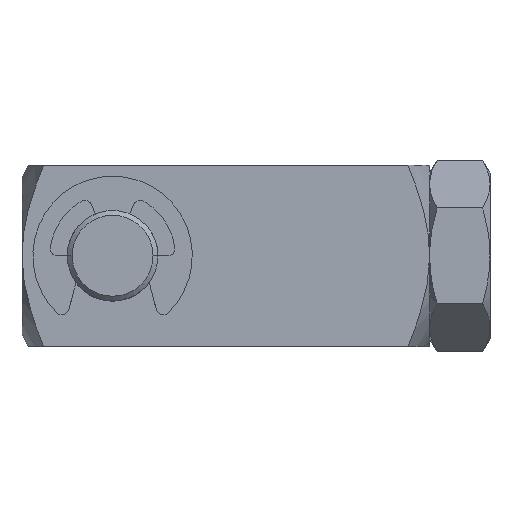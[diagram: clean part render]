
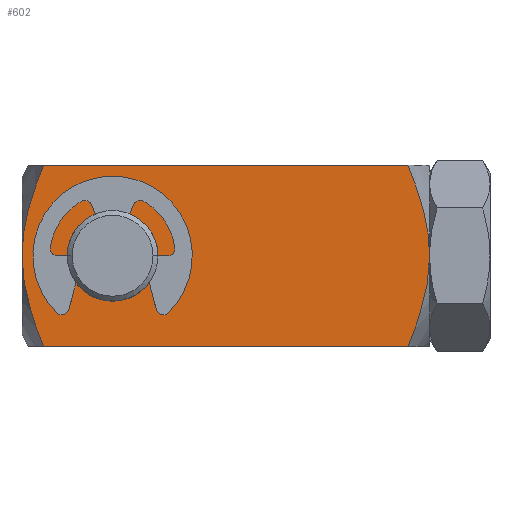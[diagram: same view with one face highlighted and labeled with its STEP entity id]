
A CAD part, top view. The second image highlights one B-rep face of the part: STEP entity #602.
In plain terms, the highlighted planar face has unit normal (0, 0, 1).
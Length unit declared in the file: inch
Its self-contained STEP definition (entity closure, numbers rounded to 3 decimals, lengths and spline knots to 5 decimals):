
#12=CARTESIAN_POINT('',(-1.59782,-0.375,0.375));
#19=DIRECTION('',(1.,0.,0.));
#20=VECTOR('',#19,1.50814);
#21=CARTESIAN_POINT('',(-1.59782,-0.375,0.375));
#22=LINE('',#21,#20);
#23=CARTESIAN_POINT('',(-0.08968,-0.375,0.375));
#68=CARTESIAN_POINT('',(-1.59782,0.375,0.375));
#69=CARTESIAN_POINT('',(-1.6072,0.35203,0.375));
#70=CARTESIAN_POINT('',(-1.6242,0.30825,0.375));
#71=CARTESIAN_POINT('',(-1.64429,0.24988,0.375));
#72=CARTESIAN_POINT('',(-1.66004,0.19653,0.375));
#73=CARTESIAN_POINT('',(-1.67215,0.14616,0.375));
#74=CARTESIAN_POINT('',(-1.68091,0.09715,0.375));
#75=CARTESIAN_POINT('',(-1.68628,0.04857,0.375));
#76=CARTESIAN_POINT('',(-1.6875,0.01618,0.375));
#77=CARTESIAN_POINT('',(-1.6875,0.,0.375));
#79=CARTESIAN_POINT('',(-0.08968,0.375,0.375));
#80=CARTESIAN_POINT('',(-0.0803,0.35203,0.375));
#81=CARTESIAN_POINT('',(-0.0633,0.30825,0.375));
#82=CARTESIAN_POINT('',(-0.04321,0.24988,0.375));
#83=CARTESIAN_POINT('',(-0.02746,0.19653,0.375));
#84=CARTESIAN_POINT('',(-0.01535,0.14616,0.375));
#85=CARTESIAN_POINT('',(-0.00659,0.09715,0.375));
#86=CARTESIAN_POINT('',(-0.00122,0.04857,0.375));
#87=CARTESIAN_POINT('',(0.,0.01618,0.375));
#88=CARTESIAN_POINT('',(0.,0.,0.375));
#90=CARTESIAN_POINT('',(0.,0.,0.375));
#91=CARTESIAN_POINT('',(0.,-0.01617,0.375));
#92=CARTESIAN_POINT('',(-0.00121,-0.04854,0.375));
#93=CARTESIAN_POINT('',(-0.00659,-0.09709,0.375));
#94=CARTESIAN_POINT('',(-0.01533,-0.14602,0.375));
#95=CARTESIAN_POINT('',(-0.02739,-0.19627,0.375));
#96=CARTESIAN_POINT('',(-0.04303,-0.24932,0.375));
#97=CARTESIAN_POINT('',(-0.06317,-0.30789,0.375));
#98=CARTESIAN_POINT('',(-0.08024,-0.35189,0.375));
#99=CARTESIAN_POINT('',(-0.08968,-0.375,0.375));
#101=CARTESIAN_POINT('',(-1.6875,0.,0.375));
#102=CARTESIAN_POINT('',(-1.6875,-0.01617,0.375));
#103=CARTESIAN_POINT('',(-1.68629,-0.04854,0.375));
#104=CARTESIAN_POINT('',(-1.68091,-0.09709,0.375));
#105=CARTESIAN_POINT('',(-1.67217,-0.14602,0.375));
#106=CARTESIAN_POINT('',(-1.66011,-0.19627,0.375));
#107=CARTESIAN_POINT('',(-1.64447,-0.24932,0.375));
#108=CARTESIAN_POINT('',(-1.62433,-0.30789,0.375));
#109=CARTESIAN_POINT('',(-1.60726,-0.35189,0.375));
#110=CARTESIAN_POINT('',(-1.59782,-0.375,0.375));
#112=CARTESIAN_POINT('',(-1.3125,0.,0.375));
#113=DIRECTION('',(0.,0.,-1.));
#114=DIRECTION('',(-1.,0.,0.));
#115=AXIS2_PLACEMENT_3D('',#112,#113,#114);
#117=CARTESIAN_POINT('',(-1.3125,0.,0.375));
#118=DIRECTION('',(0.,0.,-1.));
#119=DIRECTION('',(1.,0.,0.));
#120=AXIS2_PLACEMENT_3D('',#117,#118,#119);
#153=CARTESIAN_POINT('',(-0.08968,0.375,0.375));
#155=DIRECTION('',(1.,0.,0.));
#156=VECTOR('',#155,1.50814);
#157=CARTESIAN_POINT('',(-1.59782,0.375,0.375));
#158=LINE('',#157,#156);
#164=CARTESIAN_POINT('',(-1.59782,0.375,0.375));
#432=VERTEX_POINT('',#12);
#436=VERTEX_POINT('',#23);
#442=VERTEX_POINT('',#164);
#445=VERTEX_POINT('',#153);
#453=CARTESIAN_POINT('',(-1.6875,0.,0.375));
#454=VERTEX_POINT('',#453);
#455=VERTEX_POINT('',#88);
#468=CARTESIAN_POINT('',(-1.5005,0.,0.375));
#469=CARTESIAN_POINT('',(-1.1245,0.,0.375));
#470=VERTEX_POINT('',#468);
#471=VERTEX_POINT('',#469);
#580=CARTESIAN_POINT('',(-1.6875,-0.375,0.375));
#581=DIRECTION('',(0.,0.,1.));
#582=DIRECTION('',(1.,0.,0.));
#583=AXIS2_PLACEMENT_3D('',#580,#581,#582);
#584=PLANE('',#583);
#585=ORIENTED_EDGE('',*,*,#531,.F.);
#587=ORIENTED_EDGE('',*,*,#586,.T.);
#589=ORIENTED_EDGE('',*,*,#588,.T.);
#591=ORIENTED_EDGE('',*,*,#590,.T.);
#592=ORIENTED_EDGE('',*,*,#562,.F.);
#593=ORIENTED_EDGE('',*,*,#503,.F.);
#594=EDGE_LOOP('',(#585,#587,#589,#591,#592,#593));
#595=FACE_OUTER_BOUND('',#594,.F.);
#597=ORIENTED_EDGE('',*,*,#596,.F.);
#599=ORIENTED_EDGE('',*,*,#598,.F.);
#600=EDGE_LOOP('',(#597,#599));
#601=FACE_BOUND('',#600,.F.);
#602=ADVANCED_FACE('',(#595,#601),#584,.T.);
#78=B_SPLINE_CURVE_WITH_KNOTS('',3,(#68,#69,#70,#71,#72,#73,#74,#75,#76,#77),
.UNSPECIFIED.,.F.,.F.,(4,1,1,1,1,1,1,4),(0.,0.14286,
0.28571,0.42857,0.57143,0.71429,
0.85714,1.),.UNSPECIFIED.);
#89=B_SPLINE_CURVE_WITH_KNOTS('',3,(#79,#80,#81,#82,#83,#84,#85,#86,#87,#88),
.UNSPECIFIED.,.F.,.F.,(4,1,1,1,1,1,1,4),(0.,0.14286,
0.28571,0.42857,0.57143,0.71429,
0.85714,1.),.UNSPECIFIED.);
#100=B_SPLINE_CURVE_WITH_KNOTS('',3,(#90,#91,#92,#93,#94,#95,#96,#97,#98,#99),
.UNSPECIFIED.,.F.,.F.,(4,1,1,1,1,1,1,4),(0.,0.14286,
0.28571,0.42857,0.57143,0.71429,
0.85714,1.),.UNSPECIFIED.);
#111=B_SPLINE_CURVE_WITH_KNOTS('',3,(#101,#102,#103,#104,#105,#106,#107,#108,
#109,#110),.UNSPECIFIED.,.F.,.F.,(4,1,1,1,1,1,1,4),(0.,0.14286,
0.28571,0.42857,0.57143,0.71429,
0.85714,1.),.UNSPECIFIED.);
#116=CIRCLE('',#115,0.188);
#121=CIRCLE('',#120,0.188);
#503=EDGE_CURVE('',#454,#432,#111,.T.);
#531=EDGE_CURVE('',#442,#454,#78,.T.);
#562=EDGE_CURVE('',#432,#436,#22,.T.);
#586=EDGE_CURVE('',#442,#445,#158,.T.);
#588=EDGE_CURVE('',#445,#455,#89,.T.);
#590=EDGE_CURVE('',#455,#436,#100,.T.);
#596=EDGE_CURVE('',#470,#471,#116,.T.);
#598=EDGE_CURVE('',#471,#470,#121,.T.);
